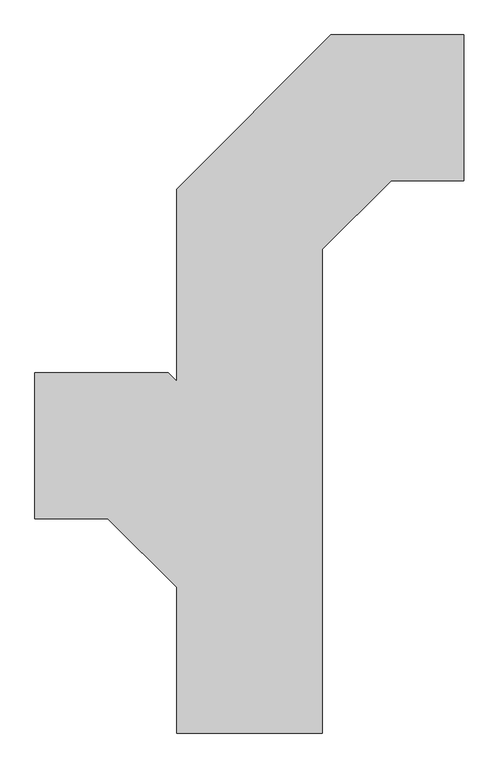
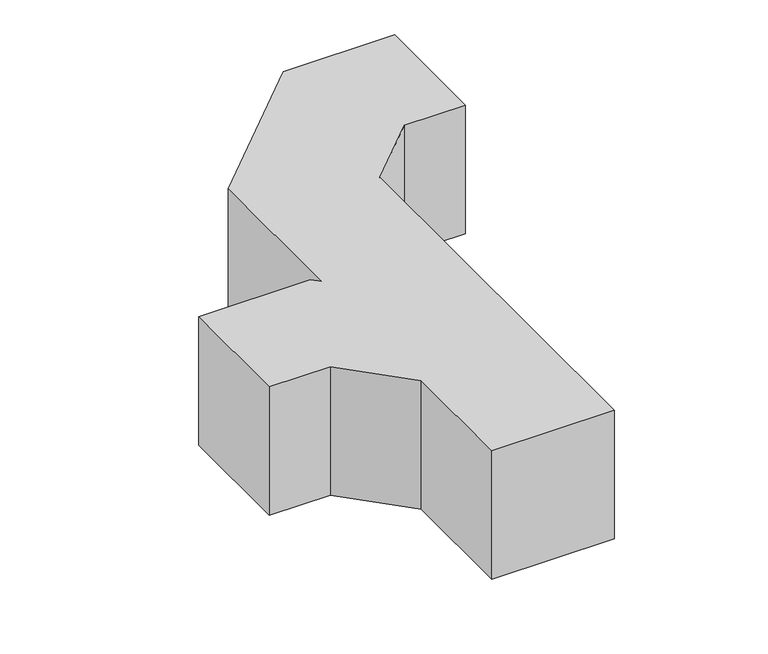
"""IFC4 building model written with IfcOpenShell, lengths in millimetres: duct fitting geometry, 2017_Te_Climaver_Te-Rectangular-Ramificación-Doble : Te_Ramificación-Doble-Pantalón_Climaver."""

from ifc_helpers import new_model, si_unit, frame, origin, place, context, project, spatial, polyline, outline, extrude, source, transform, mapped, element, save


def duct_fitting_e5493871(model_context):
    return source(origin(), model_context, "Body", "SweptSolid", [
        extrude(outline(polyline([(225.0, -887.1320344), (-225.0, -887.1320344), (-225.0, -437.1320344), (-437.1320344, -225.0), (-662.1320344, -225.0), (-662.1320344, 225.0), (-250.7359313, 225.0), (-225.0, 199.2640687), (-225.0, 792.2235363), (250.7359313, 1267.9594676), (662.1320344, 1267.9594676), (662.1320344, 817.9594676), (437.1320344, 817.9594676), (225.0, 605.8274332), (225.0, -887.1320344)])), frame((0.0, 0.0, -250.0), z_axis=(0.0, 0.0, 1.0), x_axis=(1.0, 0.0, 0.0)), (0.0, 0.0, 1.0), 500.0),
    ])


if __name__ == "__main__":
    model = new_model("IFC4")
    model_context = context("Model", 3, world=origin())
    ifc_project = project(units=[si_unit("LENGTHUNIT", "METRE", prefix="MILLI")], contexts=[model_context])
    site = spatial("IfcSite", under=ifc_project)
    building = spatial("IfcBuilding", under=site)
    placement = place(None, origin())
    duct_fitting_shape = duct_fitting_e5493871(model_context)
    element("IfcDuctFitting", 1, ObjectType="2017_Te_Climaver_Te-Rectangular-Ramificación-Doble : Te_Ramificación-Doble-Pantalón_Climaver", at=placement, inside=building, context=model_context, shape_type="MappedRepresentation", body=[
        mapped(duct_fitting_shape, transform((0.0, 0.0, 0.0), x_axis=(1.0, 0.0, 0.0), y_axis=(0.0, 1.0, 0.0), z_axis=(0.0, 0.0, 1.0))),
    ])
    save(model, "model.ifc")
